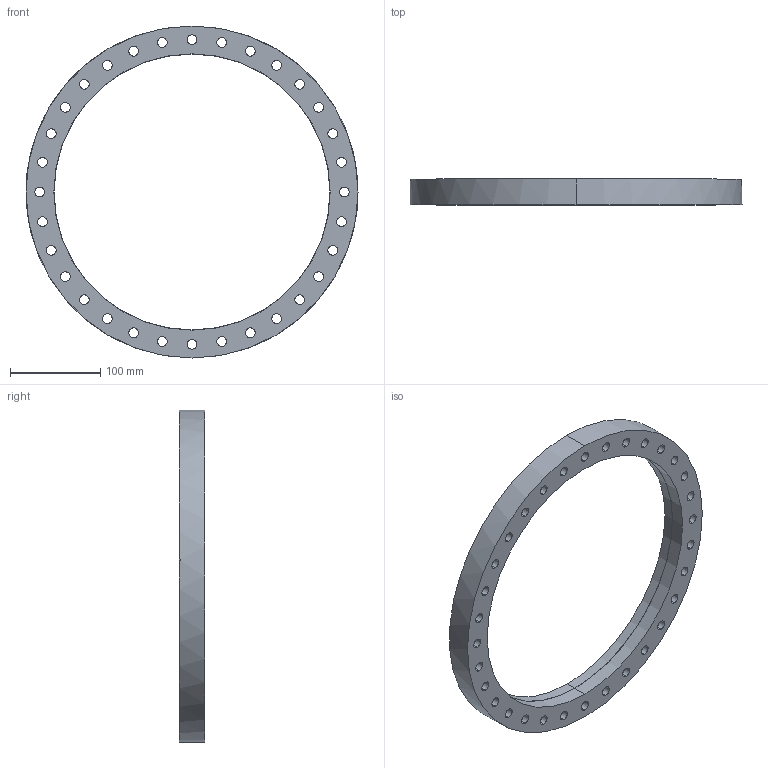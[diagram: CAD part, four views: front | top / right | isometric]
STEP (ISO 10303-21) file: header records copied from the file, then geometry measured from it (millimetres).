
FILE_DESCRIPTION (( 'STEP AP214' ), '1' );
FILE_NAME ('W6CFF300.STEP', '2021-07-09T09:31:51', ( '' ), ( '' ), 'SwSTEP 2.0', 'SolidWorks 2020', '' );
FILE_SCHEMA (( 'AUTOMOTIVE_DESIGN' ));
Length unit declared in the file: millimetre
Products named in the file (1): W6CFF300
Bounding box: 368.3 x 28.5 x 368.3 mm (x, y, z)
Volume: 840890.2 mm3; surface area: 152265.6 mm2
Topology: 1 solids, 1 shells, 89 faces, 248 edges, 162 vertices
Faces by surface type: cylinder 74, torus 6, plane 5, cone 4
Entity records: 3172 total; most frequent: DIRECTION 588, CARTESIAN_POINT 568, ORIENTED_EDGE 496, AXIS2_PLACEMENT_3D 254, EDGE_CURVE 248, CIRCLE 164, VERTEX_POINT 162, EDGE_LOOP 156
